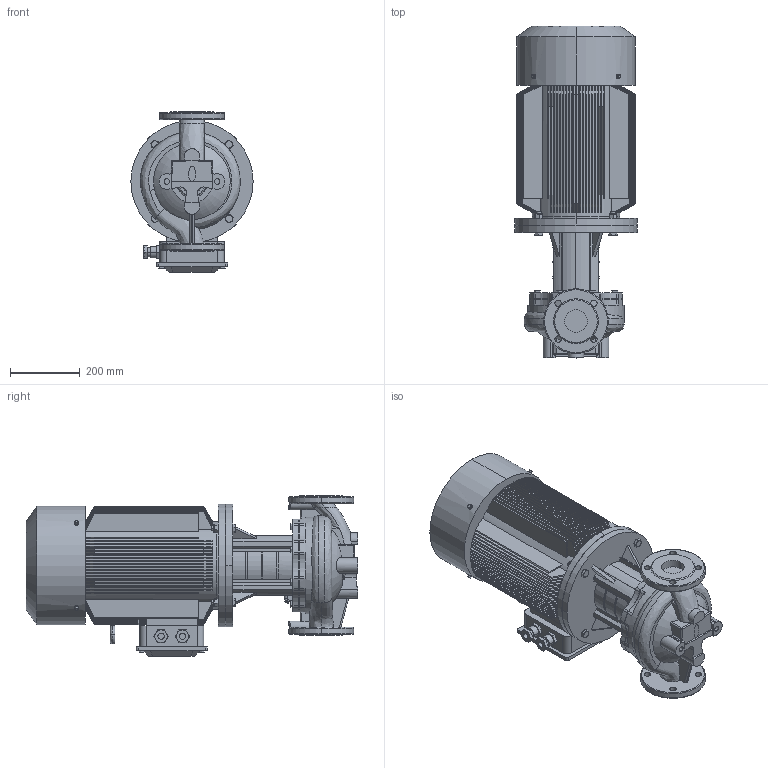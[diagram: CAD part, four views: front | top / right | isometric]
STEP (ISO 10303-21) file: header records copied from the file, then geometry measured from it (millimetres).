
FILE_DESCRIPTION (( 'STEP AP203' ), '1' );
FILE_NAME ('TD65-41 51G／2.STEP', '2026-09-07T02:27:38', ( '' ), ( '' ), 'SwSTEP 2.0', 'SolidWorks 2020', '' );
FILE_SCHEMA (( 'CONFIG_CONTROL_DESIGN' ));
Products named in the file (1): TD65-41 51Gㄞ2
Bounding box: 350 x 950 x 460 mm (x, y, z)
Volume: 58492752.6 mm3; surface area: 3863189.7 mm2
Topology: 1 solids, 9 shells, 1555 faces, 3992 edges, 2518 vertices
Faces by surface type: plane 692, cylinder 389, cone 370, torus 53, bspline 49, sphere 2
Entity records: 68282 total; most frequent: CARTESIAN_POINT 31506, ORIENTED_EDGE 7976, DIRECTION 7357, EDGE_CURVE 3988, AXIS2_PLACEMENT_3D 2903, VERTEX_POINT 2518, EDGE_LOOP 1666, ADVANCED_FACE 1555
